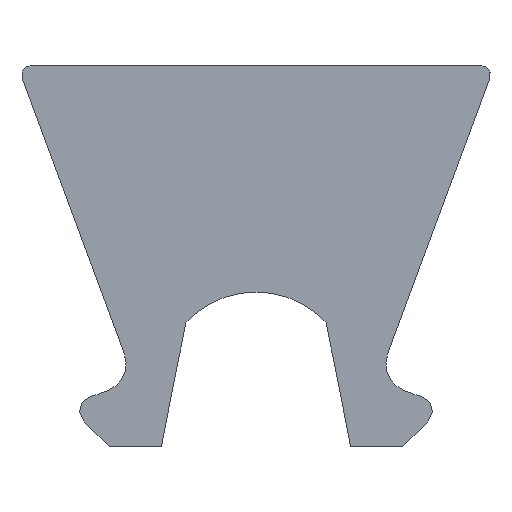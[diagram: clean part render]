
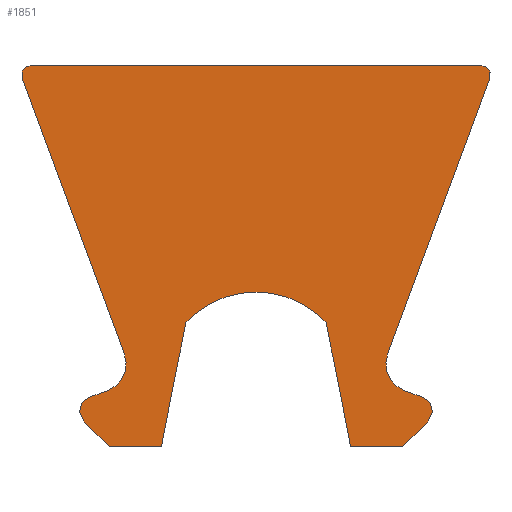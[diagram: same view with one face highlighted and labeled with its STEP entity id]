
A CAD part, front view. The second image highlights one B-rep face of the part: STEP entity #1851.
In plain terms, the highlighted planar face has unit normal (0, -1, 0).
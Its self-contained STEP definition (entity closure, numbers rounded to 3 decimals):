
#201=CARTESIAN_POINT(' ',(-3.117,-280.,0.695));
#202=VERTEX_POINT(' ',#201);
#216=CARTESIAN_POINT(' ',(-3.322,-280.,1.259));
#221=DIRECTION(' ',(-0.,-1.,0.));
#226=DIRECTION(' ',(0.342,0.,-0.94));
#231=AXIS2_PLACEMENT_3D(' ',#216,#221,#226);
#236=CIRCLE('',#231,0.6);
#241=CARTESIAN_POINT(' ',(-2.759,-280.,1.468));
#242=VERTEX_POINT(' ',#241);
#246=EDGE_CURVE(' ',#202,#242,#236,.T.);
#1086=CARTESIAN_POINT(' ',(-3.503,-280.,0.555));
#1087=VERTEX_POINT(' ',#1086);
#1101=CARTESIAN_POINT(' ',(-3.503,-280.,0.555));
#1106=DIRECTION(' ',(0.94,0.,0.342));
#1111=VECTOR(' ',#1106,1.);
#1116=LINE('',#1101,#1111);
#1121=EDGE_CURVE(' ',#1087,#202,#1116,.T.);
#1151=DIRECTION(' ',(0.,-1.,0.));
#1156=CARTESIAN_POINT(' ',(-4.916,-280.,7.513));
#1161=DIRECTION(' ',(0.,-0.,-1.));
#1166=AXIS2_PLACEMENT_3D(' ',#1156,#1151,#1161);
#1171=PLANE('',#1166);
#1176=CARTESIAN_POINT(' ',(-4.711,-280.,7.513));
#1181=DIRECTION(' ',(1.,0.,0.));
#1186=VECTOR(' ',#1181,1.);
#1191=LINE('',#1176,#1186);
#1196=CARTESIAN_POINT(' ',(-4.711,-280.,7.513));
#1197=VERTEX_POINT(' ',#1196);
#1201=CARTESIAN_POINT(' ',(4.711,-280.,7.513));
#1202=VERTEX_POINT(' ',#1201);
#1206=EDGE_CURVE(' ',#1197,#1202,#1191,.T.);
#1211=ORIENTED_EDGE(' ',*,*,#1206,.F.);
#1216=CARTESIAN_POINT(' ',(-4.711,-280.,7.313));
#1221=DIRECTION(' ',(0.,-1.,0.));
#1226=DIRECTION(' ',(0.,0.,1.));
#1231=AXIS2_PLACEMENT_3D(' ',#1216,#1221,#1226);
#1236=CIRCLE('',#1231,0.2);
#1241=CARTESIAN_POINT(' ',(-4.899,-280.,7.243));
#1242=VERTEX_POINT(' ',#1241);
#1246=EDGE_CURVE(' ',#1197,#1242,#1236,.T.);
#1251=ORIENTED_EDGE(' ',*,*,#1246,.T.);
#1256=CARTESIAN_POINT(' ',(-2.759,-280.,1.468));
#1261=DIRECTION(' ',(-0.347,0.,0.938));
#1266=VECTOR(' ',#1261,1.);
#1271=LINE('',#1256,#1266);
#1276=EDGE_CURVE(' ',#242,#1242,#1271,.T.);
#1281=ORIENTED_EDGE(' ',*,*,#1276,.F.);
#1286=ORIENTED_EDGE(' ',*,*,#246,.F.);
#1291=ORIENTED_EDGE(' ',*,*,#1121,.F.);
#1296=CARTESIAN_POINT(' ',(-3.4,-280.,0.273));
#1301=DIRECTION(' ',(-0.,1.,0.));
#1306=DIRECTION(' ',(-0.707,0.,-0.707));
#1311=AXIS2_PLACEMENT_3D(' ',#1296,#1301,#1306);
#1316=CIRCLE('',#1311,0.3);
#1321=CARTESIAN_POINT(' ',(-3.612,-280.,0.061));
#1322=VERTEX_POINT(' ',#1321);
#1326=EDGE_CURVE(' ',#1322,#1087,#1316,.T.);
#1331=ORIENTED_EDGE(' ',*,*,#1326,.F.);
#1336=CARTESIAN_POINT(' ',(-3.074,-280.,-0.477));
#1341=DIRECTION(' ',(-0.707,0.,0.707));
#1346=VECTOR(' ',#1341,1.);
#1351=LINE('',#1336,#1346);
#1356=CARTESIAN_POINT(' ',(-3.074,-280.,-0.477));
#1357=VERTEX_POINT(' ',#1356);
#1361=EDGE_CURVE(' ',#1357,#1322,#1351,.T.);
#1366=ORIENTED_EDGE(' ',*,*,#1361,.F.);
#1371=CARTESIAN_POINT(' ',(-1.981,-280.,-0.477));
#1376=DIRECTION(' ',(-1.,0.,0.));
#1381=VECTOR(' ',#1376,1.);
#1386=LINE('',#1371,#1381);
#1391=CARTESIAN_POINT(' ',(-1.981,-280.,-0.477));
#1392=VERTEX_POINT(' ',#1391);
#1396=EDGE_CURVE(' ',#1392,#1357,#1386,.T.);
#1401=ORIENTED_EDGE(' ',*,*,#1396,.F.);
#1406=CARTESIAN_POINT(' ',(-1.75,-280.,0.72));
#1411=DIRECTION(' ',(-0.19,0.,-0.982));
#1416=VECTOR(' ',#1411,1.);
#1421=LINE('',#1406,#1416);
#1426=CARTESIAN_POINT(' ',(-1.75,-280.,0.72));
#1427=VERTEX_POINT(' ',#1426);
#1431=EDGE_CURVE(' ',#1427,#1392,#1421,.T.);
#1436=ORIENTED_EDGE(' ',*,*,#1431,.F.);
#1441=CARTESIAN_POINT(' ',(-1.469,-280.,2.121));
#1446=DIRECTION(' ',(-0.197,0.,-0.98));
#1451=VECTOR(' ',#1446,1.);
#1456=LINE('',#1441,#1451);
#1461=CARTESIAN_POINT(' ',(-1.469,-280.,2.121));
#1462=VERTEX_POINT(' ',#1461);
#1466=EDGE_CURVE(' ',#1462,#1427,#1456,.T.);
#1471=ORIENTED_EDGE(' ',*,*,#1466,.F.);
#1476=CARTESIAN_POINT(' ',(0.,-280.,0.763));
#1481=DIRECTION(' ',(0.,-1.,-0.));
#1486=DIRECTION(' ',(0.734,0.,0.679));
#1491=AXIS2_PLACEMENT_3D(' ',#1476,#1481,#1486);
#1496=CIRCLE('',#1491,2.);
#1501=CARTESIAN_POINT(' ',(1.469,-280.,2.121));
#1502=VERTEX_POINT(' ',#1501);
#1506=EDGE_CURVE(' ',#1502,#1462,#1496,.T.);
#1511=ORIENTED_EDGE(' ',*,*,#1506,.F.);
#1516=CARTESIAN_POINT(' ',(1.75,-280.,0.72));
#1521=DIRECTION(' ',(-0.197,0.,0.98));
#1526=VECTOR(' ',#1521,1.);
#1531=LINE('',#1516,#1526);
#1536=CARTESIAN_POINT(' ',(1.75,-280.,0.72));
#1537=VERTEX_POINT(' ',#1536);
#1541=EDGE_CURVE(' ',#1537,#1502,#1531,.T.);
#1546=ORIENTED_EDGE(' ',*,*,#1541,.F.);
#1551=CARTESIAN_POINT(' ',(1.981,-280.,-0.477));
#1556=DIRECTION(' ',(-0.19,0.,0.982));
#1561=VECTOR(' ',#1556,1.);
#1566=LINE('',#1551,#1561);
#1571=CARTESIAN_POINT(' ',(1.981,-280.,-0.477));
#1572=VERTEX_POINT(' ',#1571);
#1576=EDGE_CURVE(' ',#1572,#1537,#1566,.T.);
#1581=ORIENTED_EDGE(' ',*,*,#1576,.F.);
#1586=CARTESIAN_POINT(' ',(3.074,-280.,-0.477));
#1591=DIRECTION(' ',(-1.,0.,0.));
#1596=VECTOR(' ',#1591,1.);
#1601=LINE('',#1586,#1596);
#1606=CARTESIAN_POINT(' ',(3.074,-280.,-0.477));
#1607=VERTEX_POINT(' ',#1606);
#1611=EDGE_CURVE(' ',#1607,#1572,#1601,.T.);
#1616=ORIENTED_EDGE(' ',*,*,#1611,.F.);
#1621=CARTESIAN_POINT(' ',(3.612,-280.,0.061));
#1626=DIRECTION(' ',(-0.707,0.,-0.707));
#1631=VECTOR(' ',#1626,1.);
#1636=LINE('',#1621,#1631);
#1641=CARTESIAN_POINT(' ',(3.612,-280.,0.061));
#1642=VERTEX_POINT(' ',#1641);
#1646=EDGE_CURVE(' ',#1642,#1607,#1636,.T.);
#1651=ORIENTED_EDGE(' ',*,*,#1646,.F.);
#1656=CARTESIAN_POINT(' ',(3.4,-280.,0.273));
#1661=DIRECTION(' ',(0.,1.,0.));
#1666=DIRECTION(' ',(0.342,0.,0.94));
#1671=AXIS2_PLACEMENT_3D(' ',#1656,#1661,#1666);
#1676=CIRCLE('',#1671,0.3);
#1681=CARTESIAN_POINT(' ',(3.503,-280.,0.555));
#1682=VERTEX_POINT(' ',#1681);
#1686=EDGE_CURVE(' ',#1682,#1642,#1676,.T.);
#1691=ORIENTED_EDGE(' ',*,*,#1686,.F.);
#1696=CARTESIAN_POINT(' ',(3.117,-280.,0.695));
#1701=DIRECTION(' ',(0.94,0.,-0.342));
#1706=VECTOR(' ',#1701,1.);
#1711=LINE('',#1696,#1706);
#1716=CARTESIAN_POINT(' ',(3.117,-280.,0.695));
#1717=VERTEX_POINT(' ',#1716);
#1721=EDGE_CURVE(' ',#1717,#1682,#1711,.T.);
#1726=ORIENTED_EDGE(' ',*,*,#1721,.F.);
#1731=CARTESIAN_POINT(' ',(3.322,-280.,1.259));
#1736=DIRECTION(' ',(0.,-1.,0.));
#1741=DIRECTION(' ',(-0.938,0.,0.347));
#1746=AXIS2_PLACEMENT_3D(' ',#1731,#1736,#1741);
#1751=CIRCLE('',#1746,0.6);
#1756=CARTESIAN_POINT(' ',(2.759,-280.,1.468));
#1757=VERTEX_POINT(' ',#1756);
#1761=EDGE_CURVE(' ',#1757,#1717,#1751,.T.);
#1766=ORIENTED_EDGE(' ',*,*,#1761,.F.);
#1771=CARTESIAN_POINT(' ',(4.899,-280.,7.243));
#1776=DIRECTION(' ',(-0.347,0.,-0.938));
#1781=VECTOR(' ',#1776,1.);
#1786=LINE('',#1771,#1781);
#1791=CARTESIAN_POINT(' ',(4.899,-280.,7.243));
#1792=VERTEX_POINT(' ',#1791);
#1796=EDGE_CURVE(' ',#1792,#1757,#1786,.T.);
#1801=ORIENTED_EDGE(' ',*,*,#1796,.F.);
#1806=CARTESIAN_POINT(' ',(4.711,-280.,7.313));
#1811=DIRECTION(' ',(-0.,-1.,-0.));
#1816=DIRECTION(' ',(0.938,0.,-0.347));
#1821=AXIS2_PLACEMENT_3D(' ',#1806,#1811,#1816);
#1826=CIRCLE('',#1821,0.2);
#1831=EDGE_CURVE(' ',#1792,#1202,#1826,.T.);
#1836=ORIENTED_EDGE(' ',*,*,#1831,.T.);
#1841=EDGE_LOOP(' ',(#1211,#1251,#1281,#1286,#1291,#1331,#1366,#1401,#1436,#1471,#1511,#1546,#1581,#1616,#1651,#1691,#1726,#1766,#1801,#1836));
#1846=FACE_OUTER_BOUND(' ',#1841,.T.);
#1851=ADVANCED_FACE('',(#1846),#1171,.T.);
